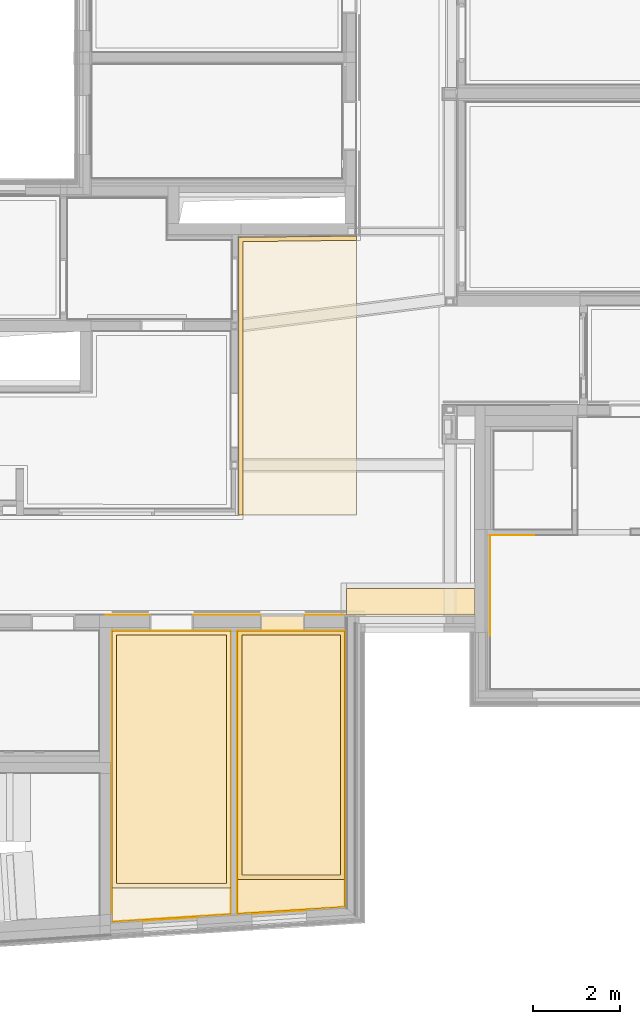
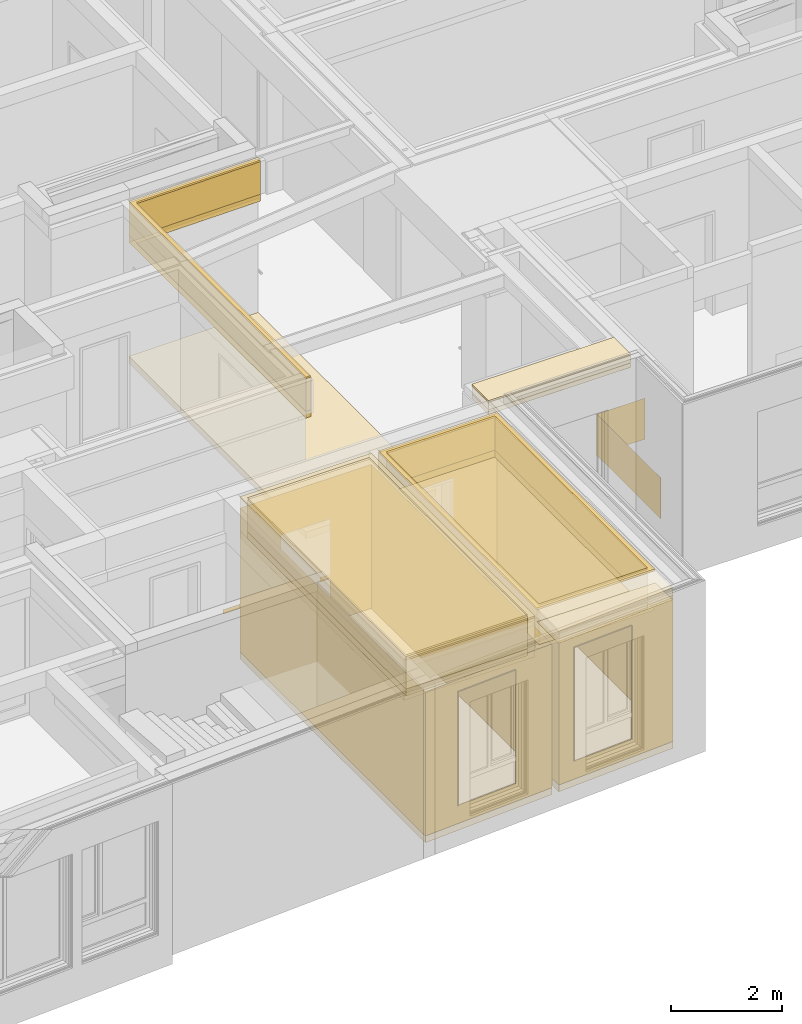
# One storey, part 182 of 222: 34 coverings.
"""IFC4 building model written with IfcOpenShell, lengths in metres."""

from ifc_helpers import new_model, entity, si_unit, converted_unit, derived_unit, frame, frame_2d, origin, origin_with_axes, place, context, subcontext, project, spatial, polyline, rectangle, outline, extrude, material, layer, layer_set, layer_usage, element, save


model = new_model("IFC4")

# Units and contexts
model_context = context("Model", 3, precision=1e-05, world=origin())
body_context = subcontext(model_context, "Body", "Model", "MODEL_VIEW")
ifc_project = project(units=[si_unit("LENGTHUNIT", "METRE"), si_unit("AREAUNIT", "SQUARE_METRE"), si_unit("VOLUMEUNIT", "CUBIC_METRE"), si_unit("MASSUNIT", "GRAM", prefix="KILO"), converted_unit("PLANEANGLEUNIT", "DEGREE", entity("IfcPlaneAngleMeasure", 0.0174532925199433), si_unit("PLANEANGLEUNIT", "RADIAN"), dimensions=[0, 0, 0, 0, 0, 0, 0]), derived_unit("THERMALTRANSMITTANCEUNIT", [(si_unit("POWERUNIT", "WATT"), 1), (si_unit("THERMODYNAMICTEMPERATUREUNIT", "KELVIN"), -1), (si_unit("LENGTHUNIT", "METRE"), -2)]), derived_unit("VOLUMETRICFLOWRATEUNIT", [(si_unit("LENGTHUNIT", "METRE"), 3), (converted_unit("TIMEUNIT", "hour", entity("IfcTimeMeasure", 3600.0), si_unit("TIMEUNIT", "SECOND"), dimensions=[0, 0, 1, 0, 0, 0, 0]), -1), (si_unit("LENGTHUNIT", "METRE"), -1)])], contexts=[model_context])

# Site, building, storey, space
site_placement = place(None, origin())
site = spatial("IfcSite", under=ifc_project, at=site_placement, Name="Psychiatrie Neubau Wunstorf", CompositionType="ELEMENT")
building_placement = place(site_placement, origin())
building = spatial("IfcBuilding", under=site, at=building_placement, Name="Neubau H2 Stationsgebäude", CompositionType="ELEMENT")
storey_placement = place(building_placement, frame((0.0, 0.0, 3.6)))
storey = spatial("IfcBuildingStorey", under=building, at=storey_placement, Name="H2 Ebene +1", CompositionType="ELEMENT", Elevation=3.6)
space_1_placement = place(storey_placement, frame((59.7893138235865, 0.536002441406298, 0.0)))
space_1 = spatial("IfcSpace", under=storey, at=space_1_placement, Name="WUN-H2-E01-F07", CompositionType="ELEMENT")

# Coverings
ifc_material_1 = material(Name="97")
ifc_layer_1 = layer(ifc_material_1, 0.001)
ifc_layer_set_1 = layer_set([ifc_layer_1])
ifc_layer_usage_1 = layer_usage(ifc_layer_set_1, "AXIS3", "POSITIVE", 0.0)
covering_1_placement = place(space_1_placement, frame((2.59547982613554, 0.0, 0.8)))
element("IfcCovering", 1, at=covering_1_placement, inside=space_1, material=ifc_layer_usage_1, Name="Handlauf", PredefinedType="CLADDING", context=body_context, shape_type="SweptSolid", body=[
    extrude(rectangle(XDim=0.99943192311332, YDim=0.1, at=frame_2d((0.49971596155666, -0.05), x_axis=(1.0, 0.0))), frame((0.0, 0.0, 0.0), z_axis=(-2.27502914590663e-16, 1.0, 0.0), x_axis=(1.0, 2.27502914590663e-16, 0.0)), (0.0, 0.0, 1.0), 0.001),
    extrude(rectangle(XDim=0.1, YDim=0.895999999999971, at=frame_2d((0.447999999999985, 0.05), x_axis=(0.0, 1.0))), frame((4.55020635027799, 0.0, 0.1), z_axis=(-2.53765262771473e-16, 1.0, 0.0), x_axis=(1.0, 2.53765262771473e-16, 0.0)), (0.0, 0.0, 1.0), 0.001),
    extrude(rectangle(XDim=0.1, YDim=1.53077442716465, at=frame_2d((0.765387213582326, 0.05), x_axis=(0.0, 1.0))), frame((2.00943192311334, 0.0, 0.1), z_axis=(-2.22802593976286e-16, 1.0, 0.0), x_axis=(1.0, 2.22802593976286e-16, 0.0)), (0.0, 0.0, 1.0), 0.001),
])
ifc_material_2 = material()
ifc_layer_2 = layer(ifc_material_2, 0.036)
ifc_layer_set_2 = layer_set([ifc_layer_2])
ifc_layer_usage_2 = layer_usage(ifc_layer_set_2, "AXIS3", "POSITIVE", 0.0)
covering_2_placement = place(space_1_placement, frame((8.0996861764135, 0.0, 3.55)))
element("IfcCovering", 2, at=covering_2_placement, inside=space_1, material=ifc_layer_usage_2, Name="Gipsfaserplatten 2-lagig (BSK)", PredefinedType="CEILING", context=body_context, shape_type="SweptSolid", body=[
    extrude(rectangle(XDim=0.6, YDim=2.94649847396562, at=frame_2d((1.47324923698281, -0.3), x_axis=(0.0, -1.0))), frame((0.0, 0.0, 0.0), z_axis=(0.0, 0.0, -1.0), x_axis=(1.0, 0.0, 0.0)), (0.0, 0.0, 1.0), 0.036),
])
ifc_material_3 = material(Name="Installationshöhe")
ifc_layer_3 = layer(ifc_material_3, 0.164)
ifc_layer_set_3 = layer_set([ifc_layer_3])
ifc_layer_usage_3 = layer_usage(ifc_layer_set_3, "AXIS3", "POSITIVE", 0.0)
covering_3_placement = place(space_1_placement, frame((8.0996861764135, 0.0, 3.514)))
element("IfcCovering", 3, at=covering_3_placement, inside=space_1, material=ifc_layer_usage_3, Name="Gipsfaserplatten 2-lagig (BSK)", PredefinedType="CEILING", context=body_context, shape_type="SweptSolid", body=[
    extrude(rectangle(XDim=0.6, YDim=2.94649847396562, at=frame_2d((1.47324923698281, -0.3), x_axis=(0.0, -1.0))), frame((0.0, 0.0, 0.0), z_axis=(0.0, 0.0, -1.0), x_axis=(1.0, 0.0, 0.0)), (0.0, 0.0, 1.0), 0.164),
])
ifc_material_4 = material(Name="A1")
ifc_layer_4 = layer(ifc_material_4, 0.1)
ifc_layer_set_4 = layer_set([ifc_layer_4])
ifc_layer_usage_4 = layer_usage(ifc_layer_set_4, "AXIS3", "POSITIVE", 0.0)
covering_4_placement = place(space_1_placement, frame((8.0996861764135, 0.0, 3.35)))
element("IfcCovering", 4, at=covering_4_placement, inside=space_1, material=ifc_layer_usage_4, Name="Gipsfaserplatten 2-lagig (BSK)", PredefinedType="CEILING", context=body_context, shape_type="SweptSolid", body=[
    extrude(rectangle(XDim=0.6, YDim=2.94649847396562, at=frame_2d((1.47324923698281, -0.3), x_axis=(0.0, -1.0))), frame((0.0, 0.0, 0.0), z_axis=(0.0, 0.0, -1.0), x_axis=(1.0, 0.0, 0.0)), (0.0, 0.0, 1.0), 0.1),
])
ifc_material_5 = material(Name="D1")
ifc_layer_5 = layer(ifc_material_5, 0.001)
ifc_layer_set_5 = layer_set([ifc_layer_5])
ifc_layer_usage_5 = layer_usage(ifc_layer_set_5, "AXIS3", "POSITIVE", 0.0)
covering_5_placement = place(space_1_placement, frame((8.0996861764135, 0.0, 3.25)))
element("IfcCovering", 5, at=covering_5_placement, inside=space_1, material=ifc_layer_usage_5, Name="Gipsfaserplatten 2-lagig (BSK)", PredefinedType="CEILING", context=body_context, shape_type="SweptSolid", body=[
    extrude(rectangle(XDim=0.6, YDim=2.94649847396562, at=frame_2d((1.47324923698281, -0.3), x_axis=(0.0, -1.0))), frame((0.0, 0.0, 0.0), z_axis=(0.0, 0.0, -1.0), x_axis=(1.0, 0.0, 0.0)), (0.0, 0.0, 1.0), 0.001),
])

# Space
space_2_placement = place(storey_placement, frame((71.1825, -1.16399999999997, 0.0)))
space_2 = spatial("IfcSpace", under=storey, at=space_2_placement, Name="WUN-H2-E01-096", CompositionType="ELEMENT")

# Covering
ifc_material_6 = material(Name="84")
ifc_layer_6 = layer(ifc_material_6, 0.001)
ifc_layer_set_6 = layer_set([ifc_layer_6])
ifc_layer_usage_6 = layer_usage(ifc_layer_set_6, "AXIS3", "POSITIVE", 0.0)
covering_6_placement = place(space_2_placement, frame((0.0, 1.22450000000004, 0.1)))
element("IfcCovering", 6, at=covering_6_placement, inside=space_2, material=ifc_layer_usage_6, Name="Acrovyn", PredefinedType="CLADDING", context=body_context, shape_type="SweptSolid", body=[
    extrude(rectangle(XDim=1.0035, YDim=0.9, at=frame_2d((0.50175, -0.45), x_axis=(1.0, 0.0))), frame((1.0035, 2.29999999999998, 0.0), z_axis=(-1.99390966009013e-14, -1.0, 0.0), x_axis=(-1.0, 1.99390966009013e-14, 0.0)), (0.0, 0.0, 1.0), 0.001),
    extrude(rectangle(XDim=2.3, YDim=0.9, at=frame_2d((1.15, -0.45), x_axis=(1.0, 0.0))), frame((0.0, 2.3, 0.0), z_axis=(1.0, 0.0, 0.0), x_axis=(0.0, -1.0, 0.0)), (0.0, 0.0, 1.0), 0.001),
])

# Space
space_3_placement = place(storey_placement, frame((62.529793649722, -6.48193409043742, 0.0)))
space_3 = spatial("IfcSpace", under=storey, at=space_3_placement, Name="WUN-H2-E01-073", CompositionType="ELEMENT")

# Coverings
ifc_material_7 = material()
ifc_layer_7 = layer(ifc_material_7, 0.036)
ifc_layer_set_7 = layer_set([ifc_layer_7])
ifc_layer_usage_7 = layer_usage(ifc_layer_set_7, "AXIS3", "POSITIVE", 0.0)
covering_7_placement = place(space_3_placement, frame((0.0, 0.774687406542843, 3.55)))
element("IfcCovering", 7, at=covering_7_placement, inside=space_3, material=ifc_layer_usage_7, Name="Gipsfaserplatten 2-lagig (BSK)", PredefinedType="CEILING", context=body_context, shape_type="SweptSolid", body=[
    extrude(rectangle(XDim=2.72020635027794, YDim=5.87824912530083, at=frame_2d((1.36010317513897, 2.93912456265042), x_axis=(1.0, 1.67173843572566e-16))), frame((0.0, 5.87824912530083, 0.0), z_axis=(0.0, 0.0, -1.0), x_axis=(1.0, 0.0, 0.0)), (0.0, 0.0, 1.0), 0.036),
])
ifc_material_8 = material(Name="Installationshöhe")
ifc_layer_8 = layer(ifc_material_8, 0.714)
ifc_layer_set_8 = layer_set([ifc_layer_8])
ifc_layer_usage_8 = layer_usage(ifc_layer_set_8, "AXIS3", "POSITIVE", 0.0)
covering_8_placement = place(space_3_placement, frame((0.0, 0.774687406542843, 3.514)))
element("IfcCovering", 8, at=covering_8_placement, inside=space_3, material=ifc_layer_usage_8, Name="Gipsfaserplatten 2-lagig (BSK)", PredefinedType="CEILING", context=body_context, shape_type="SweptSolid", body=[
    extrude(rectangle(XDim=2.72020635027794, YDim=5.87824912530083, at=frame_2d((1.36010317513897, 2.93912456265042), x_axis=(1.0, 1.67173843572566e-16))), frame((0.0, 5.87824912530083, 0.0), z_axis=(0.0, 0.0, -1.0), x_axis=(1.0, 0.0, 0.0)), (0.0, 0.0, 1.0), 0.714),
])
ifc_material_9 = material(Name="A1")
ifc_layer_9 = layer(ifc_material_9, 0.15)
ifc_layer_set_9 = layer_set([ifc_layer_9])
ifc_layer_usage_9 = layer_usage(ifc_layer_set_9, "AXIS3", "POSITIVE", 0.0)
covering_9_placement = place(space_3_placement, frame((0.0, 0.774687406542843, 2.8)))
element("IfcCovering", 9, at=covering_9_placement, inside=space_3, material=ifc_layer_usage_9, Name="Gipsfaserplatten 2-lagig (BSK)", PredefinedType="CEILING", context=body_context, shape_type="SweptSolid", body=[
    extrude(rectangle(XDim=2.72020635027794, YDim=5.87824912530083, at=frame_2d((1.36010317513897, 2.93912456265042), x_axis=(1.0, 1.67173843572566e-16))), frame((0.0, 5.87824912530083, 0.0), z_axis=(0.0, 0.0, -1.0), x_axis=(1.0, 0.0, 0.0)), (0.0, 0.0, 1.0), 0.15),
])
ifc_material_10 = material(Name="D1")
ifc_layer_10 = layer(ifc_material_10, 0.001)
ifc_layer_set_10 = layer_set([ifc_layer_10])
ifc_layer_usage_10 = layer_usage(ifc_layer_set_10, "AXIS3", "POSITIVE", 0.0)
covering_10_placement = place(space_3_placement, frame((0.0, 0.774687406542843, 2.65)))
element("IfcCovering", 10, at=covering_10_placement, inside=space_3, material=ifc_layer_usage_10, Name="Gipsfaserplatten 2-lagig (BSK)", PredefinedType="CEILING", context=body_context, shape_type="SweptSolid", body=[
    extrude(rectangle(XDim=2.72020635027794, YDim=5.87824912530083, at=frame_2d((1.36010317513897, 2.93912456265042), x_axis=(1.0, 1.67173843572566e-16))), frame((0.0, 5.87824912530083, 0.0), z_axis=(0.0, 0.0, -1.0), x_axis=(1.0, 0.0, 0.0)), (0.0, 0.0, 1.0), 0.001),
])
ifc_material_11 = material()
ifc_layer_11 = layer(ifc_material_11, 0.036)
ifc_layer_set_11 = layer_set([ifc_layer_11])
ifc_layer_usage_11 = layer_usage(ifc_layer_set_11, "AXIS3", "POSITIVE", 0.0)
covering_11_placement = place(space_3_placement, frame((0.100000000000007, 0.874687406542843, 3.55)))
element("IfcCovering", 11, at=covering_11_placement, inside=space_3, material=ifc_layer_usage_11, Name="Gipsfaserplatten 2-lagig (BSK)", PredefinedType="CEILING", context=body_context, shape_type="SweptSolid", body=[
    extrude(rectangle(XDim=5.67824912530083, YDim=2.52020635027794, at=frame_2d((1.26010317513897, -2.83912456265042), x_axis=(0.0, -1.0))), frame((0.0, 0.0, 0.0), z_axis=(0.0, 0.0, -1.0), x_axis=(1.0, 0.0, 0.0)), (0.0, 0.0, 1.0), 0.036),
])
ifc_material_12 = material(Name="Installationshöhe")
ifc_layer_12 = layer(ifc_material_12, 0.714)
ifc_layer_set_12 = layer_set([ifc_layer_12])
ifc_layer_usage_12 = layer_usage(ifc_layer_set_12, "AXIS3", "POSITIVE", 0.0)
covering_12_placement = place(space_3_placement, frame((0.100000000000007, 0.874687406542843, 3.514)))
element("IfcCovering", 12, at=covering_12_placement, inside=space_3, material=ifc_layer_usage_12, Name="Gipsfaserplatten 2-lagig (BSK)", PredefinedType="CEILING", context=body_context, shape_type="SweptSolid", body=[
    extrude(rectangle(XDim=5.67824912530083, YDim=2.52020635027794, at=frame_2d((1.26010317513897, -2.83912456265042), x_axis=(0.0, -1.0))), frame((0.0, 0.0, 0.0), z_axis=(0.0, 0.0, -1.0), x_axis=(1.0, 0.0, 0.0)), (0.0, 0.0, 1.0), 0.714),
])
ifc_material_13 = material(Name="Aa")
ifc_layer_13 = layer(ifc_material_13, 0.15)
ifc_layer_set_13 = layer_set([ifc_layer_13])
ifc_layer_usage_13 = layer_usage(ifc_layer_set_13, "AXIS3", "POSITIVE", 0.0)
covering_13_placement = place(space_3_placement, frame((0.100000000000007, 0.874687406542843, 2.8)))
element("IfcCovering", 13, at=covering_13_placement, inside=space_3, material=ifc_layer_usage_13, Name="Gipsfaserplatten 2-lagig (BSK)", PredefinedType="CEILING", context=body_context, shape_type="SweptSolid", body=[
    extrude(rectangle(XDim=5.67824912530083, YDim=2.52020635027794, at=frame_2d((1.26010317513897, -2.83912456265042), x_axis=(0.0, -1.0))), frame((0.0, 0.0, 0.0), z_axis=(0.0, 0.0, -1.0), x_axis=(1.0, 0.0, 0.0)), (0.0, 0.0, 1.0), 0.15),
])
ifc_material_14 = material(Name="D1")
ifc_layer_14 = layer(ifc_material_14, 0.001)
ifc_layer_set_14 = layer_set([ifc_layer_14])
ifc_layer_usage_14 = layer_usage(ifc_layer_set_14, "AXIS3", "POSITIVE", 0.0)
covering_14_placement = place(space_3_placement, frame((0.100000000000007, 0.874687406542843, 2.65)))
element("IfcCovering", 14, at=covering_14_placement, inside=space_3, material=ifc_layer_usage_14, Name="Gipsfaserplatten 2-lagig (BSK)", PredefinedType="CEILING", context=body_context, shape_type="SweptSolid", body=[
    extrude(rectangle(XDim=5.67824912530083, YDim=2.52020635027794, at=frame_2d((1.26010317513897, -2.83912456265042), x_axis=(0.0, -1.0))), frame((0.0, 0.0, 0.0), z_axis=(0.0, 0.0, -1.0), x_axis=(1.0, 0.0, 0.0)), (0.0, 0.0, 1.0), 0.001),
])
ifc_material_15 = material(Name="Ku1")
ifc_layer_15 = layer(ifc_material_15, 0.15)
ifc_layer_set_15 = layer_set([ifc_layer_15])
ifc_layer_usage_15 = layer_usage(ifc_layer_set_15, "AXIS3", "POSITIVE", 0.0)
covering_15_placement = place(space_3_placement, origin())
element("IfcCovering", 15, at=covering_15_placement, inside=space_3, material=ifc_layer_usage_15, Name="PVC Bahnenware Holzoptik", PredefinedType="FLOORING", context=body_context, shape_type="SweptSolid", body=[
    extrude(outline(polyline([(0.0, 6.65293653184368), (0.0, 0.0), (2.72020635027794, 0.174687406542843), (2.72020635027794, 6.65293653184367), (0.0, 6.65293653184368)])), origin_with_axes(), (0.0, 0.0, 1.0), 0.15),
])
ifc_material_16 = material(Name="49")
ifc_layer_16 = layer(ifc_material_16, 0.001)
ifc_layer_set_16 = layer_set([ifc_layer_16])
ifc_layer_usage_16 = layer_usage(ifc_layer_set_16, "AXIS3", "POSITIVE", 0.0)
covering_16_placement = place(space_3_placement, frame((0.0, 0.0, 0.15)))
element("IfcCovering", 16, at=covering_16_placement, inside=space_3, material=ifc_layer_usage_16, PredefinedType="CLADDING", context=body_context, shape_type="SweptSolid", body=[
    extrude(rectangle(XDim=6.47824912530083, YDim=3.15, at=frame_2d((3.23912456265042, -1.575), x_axis=(1.0, 0.0))), frame((2.72020635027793, 0.174687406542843, 0.0), z_axis=(-1.0, 0.0, 0.0), x_axis=(0.0, 1.0, 0.0)), (0.0, 0.0, 1.0), 0.001),
    extrude(outline(polyline([(0.0, 3.15), (0.855774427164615, 3.15), (0.855774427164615, 0.89), (1.86577442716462, 0.89), (1.86577442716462, 3.15), (2.72020635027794, 3.15), (2.72020635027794, 0.0), (0.0, 0.0), (0.0, 3.15)])), frame((2.72020635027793, 6.65293653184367, 3.15), z_axis=(-3.04773278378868e-16, -1.0, -5.14314195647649e-17), x_axis=(-1.0, 3.04773278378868e-16, 0.0)), (0.0, 0.0, 1.0), 0.001),
    extrude(rectangle(XDim=6.65293653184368, YDim=3.15, at=frame_2d((3.32646826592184, -1.575), x_axis=(1.0, 0.0))), frame((0.0, 6.65293653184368, 0.0), z_axis=(1.0, 0.0, 0.0), x_axis=(0.0, -1.0, 0.0)), (0.0, 0.0, 1.0), 0.001),
    extrude(outline(polyline([(0.0, 3.15), (2.72580965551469, 3.15), (2.72580965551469, 0.0), (0.0, 0.0), (0.0, 3.15)]), holes=[polyline([(1.9409730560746, 2.75), (0.69097305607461, 2.75), (0.69097305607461, 0.25), (1.9409730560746, 0.25), (1.9409730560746, 2.75)])]), frame((0.0, 0.0, 3.15), z_axis=(-0.0640864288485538, 0.997944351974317, 0.0), x_axis=(0.997944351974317, 0.0640864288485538, 0.0)), (0.0, 0.0, 1.0), 0.001),
    extrude(rectangle(XDim=0.0250000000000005, YDim=1.24999999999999, at=frame_2d((0.624516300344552, -0.027579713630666), x_axis=(0.064086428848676, 0.997944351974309))), frame((0.689552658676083, 0.0442819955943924, 2.9), z_axis=(0.0, 0.0, -1.0), x_axis=(1.0, 0.0, 0.0)), (0.0, 0.0, 1.0), 0.001),
    extrude(rectangle(XDim=0.025, YDim=2.5, at=frame_2d((0.0125, -1.25), x_axis=(1.0, 0.0))), frame((0.689552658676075, 0.0442819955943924, 0.4), z_axis=(0.997944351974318, 0.0640864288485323, -1.44053441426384e-15), x_axis=(0.0640864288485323, -0.997944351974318, 0.0)), (0.0, 0.0, 1.0), 0.001),
    extrude(rectangle(XDim=2.5, YDim=0.0250000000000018, at=frame_2d((-0.0125000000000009, -1.25), x_axis=(0.0, -1.0))), frame((1.93698309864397, 0.124390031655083, 0.4), z_axis=(-0.997944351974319, -0.0640864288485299, 1.41725268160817e-15), x_axis=(-0.0640864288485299, 0.997944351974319, 0.0)), (0.0, 0.0, 1.0), 0.001),
])

# Space
space_4_placement = place(storey_placement, frame((65.4, -6.29761391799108, 0.0)))
space_4 = spatial("IfcSpace", under=storey, at=space_4_placement, Name="WUN-H2-E01-073", CompositionType="ELEMENT")

# Coverings
ifc_material_17 = material()
ifc_layer_17 = layer(ifc_material_17, 0.036)
ifc_layer_set_17 = layer_set([ifc_layer_17])
ifc_layer_usage_17 = layer_usage(ifc_layer_set_17, "AXIS3", "POSITIVE", 0.0)
covering_17_placement = place(space_4_placement, frame((0.0, 0.783613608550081, 3.55)))
element("IfcCovering", 17, at=covering_17_placement, inside=space_4, material=ifc_layer_usage_17, Name="Gipsfaserplatten 2-lagig (BSK)", PredefinedType="CEILING", context=body_context, shape_type="SweptSolid", body=[
    extrude(outline(polyline([(0.0, 0.0), (2.45250000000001, 0.0), (2.45250000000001, 5.68500275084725), (0.0, 5.68500275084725), (0.0, 0.0)]), holes=[polyline([(2.35250000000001, 5.58500275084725), (2.35250000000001, 0.0999999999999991), (0.1, 0.0999999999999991), (0.1, 5.58500275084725), (2.35250000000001, 5.58500275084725)])]), frame((0.0, 5.68500275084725, 0.0), z_axis=(0.0, 0.0, -1.0), x_axis=(1.0, 0.0, 0.0)), (0.0, 0.0, 1.0), 0.036),
])
ifc_material_18 = material(Name="Installationshöhe")
ifc_layer_18 = layer(ifc_material_18, 0.714)
ifc_layer_set_18 = layer_set([ifc_layer_18])
ifc_layer_usage_18 = layer_usage(ifc_layer_set_18, "AXIS3", "POSITIVE", 0.0)
covering_18_placement = place(space_4_placement, frame((0.0, 0.783613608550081, 3.514)))
element("IfcCovering", 18, at=covering_18_placement, inside=space_4, material=ifc_layer_usage_18, Name="Gipsfaserplatten 2-lagig (BSK)", PredefinedType="CEILING", context=body_context, shape_type="SweptSolid", body=[
    extrude(outline(polyline([(0.0, 0.0), (2.45250000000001, 0.0), (2.45250000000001, 5.68500275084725), (0.0, 5.68500275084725), (0.0, 0.0)]), holes=[polyline([(2.35250000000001, 5.58500275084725), (2.35250000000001, 0.0999999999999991), (0.1, 0.0999999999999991), (0.1, 5.58500275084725), (2.35250000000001, 5.58500275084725)])]), frame((0.0, 5.68500275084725, 0.0), z_axis=(0.0, 0.0, -1.0), x_axis=(1.0, 0.0, 0.0)), (0.0, 0.0, 1.0), 0.714),
])
ifc_material_19 = material(Name="A1")
ifc_layer_19 = layer(ifc_material_19, 0.15)
ifc_layer_set_19 = layer_set([ifc_layer_19])
ifc_layer_usage_19 = layer_usage(ifc_layer_set_19, "AXIS3", "POSITIVE", 0.0)
covering_19_placement = place(space_4_placement, frame((0.0, 0.783613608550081, 2.8)))
element("IfcCovering", 19, at=covering_19_placement, inside=space_4, material=ifc_layer_usage_19, Name="Gipsfaserplatten 2-lagig (BSK)", PredefinedType="CEILING", context=body_context, shape_type="SweptSolid", body=[
    extrude(outline(polyline([(0.0, 0.0), (2.45250000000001, 0.0), (2.45250000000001, 5.68500275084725), (0.0, 5.68500275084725), (0.0, 0.0)]), holes=[polyline([(2.35250000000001, 5.58500275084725), (2.35250000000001, 0.0999999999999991), (0.1, 0.0999999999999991), (0.1, 5.58500275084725), (2.35250000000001, 5.58500275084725)])]), frame((0.0, 5.68500275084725, 0.0), z_axis=(0.0, 0.0, -1.0), x_axis=(1.0, 0.0, 0.0)), (0.0, 0.0, 1.0), 0.15),
])
ifc_material_20 = material(Name="D1")
ifc_layer_20 = layer(ifc_material_20, 0.001)
ifc_layer_set_20 = layer_set([ifc_layer_20])
ifc_layer_usage_20 = layer_usage(ifc_layer_set_20, "AXIS3", "POSITIVE", 0.0)
covering_20_placement = place(space_4_placement, frame((0.0, 0.783613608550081, 2.65)))
element("IfcCovering", 20, at=covering_20_placement, inside=space_4, material=ifc_layer_usage_20, Name="Gipsfaserplatten 2-lagig (BSK)", PredefinedType="CEILING", context=body_context, shape_type="SweptSolid", body=[
    extrude(outline(polyline([(0.0, 0.0), (2.45250000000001, 0.0), (2.45250000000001, 5.68500275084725), (0.0, 5.68500275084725), (0.0, 0.0)]), holes=[polyline([(2.35250000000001, 5.58500275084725), (2.35250000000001, 0.0999999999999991), (0.1, 0.0999999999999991), (0.1, 5.58500275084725), (2.35250000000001, 5.58500275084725)])]), frame((0.0, 5.68500275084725, 0.0), z_axis=(0.0, 0.0, -1.0), x_axis=(1.0, 0.0, 0.0)), (0.0, 0.0, 1.0), 0.001),
])
ifc_material_21 = material()
ifc_layer_21 = layer(ifc_material_21, 0.036)
ifc_layer_set_21 = layer_set([ifc_layer_21])
ifc_layer_usage_21 = layer_usage(ifc_layer_set_21, "AXIS3", "POSITIVE", 0.0)
covering_21_placement = place(space_4_placement, frame((0.100000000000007, 0.883613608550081, 3.55)))
element("IfcCovering", 21, at=covering_21_placement, inside=space_4, material=ifc_layer_usage_21, Name="Gipsfaserplatten 2-lagig (BSK)", PredefinedType="CEILING", context=body_context, shape_type="SweptSolid", body=[
    extrude(rectangle(XDim=2.25250000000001, YDim=5.48500275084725, at=frame_2d((1.12625000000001, 2.74250137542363), x_axis=(1.0, -2.01885616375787e-16))), frame((0.0, 5.48500275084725, 0.0), z_axis=(0.0, 0.0, -1.0), x_axis=(1.0, 0.0, 0.0)), (0.0, 0.0, 1.0), 0.036),
])
ifc_material_22 = material(Name="Installationshöhe")
ifc_layer_22 = layer(ifc_material_22, 0.714)
ifc_layer_set_22 = layer_set([ifc_layer_22])
ifc_layer_usage_22 = layer_usage(ifc_layer_set_22, "AXIS3", "POSITIVE", 0.0)
covering_22_placement = place(space_4_placement, frame((0.100000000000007, 0.883613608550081, 3.514)))
element("IfcCovering", 22, at=covering_22_placement, inside=space_4, material=ifc_layer_usage_22, Name="Gipsfaserplatten 2-lagig (BSK)", PredefinedType="CEILING", context=body_context, shape_type="SweptSolid", body=[
    extrude(rectangle(XDim=2.25250000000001, YDim=5.48500275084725, at=frame_2d((1.12625000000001, 2.74250137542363), x_axis=(1.0, -2.01885616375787e-16))), frame((0.0, 5.48500275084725, 0.0), z_axis=(0.0, 0.0, -1.0), x_axis=(1.0, 0.0, 0.0)), (0.0, 0.0, 1.0), 0.714),
])
ifc_material_23 = material(Name="Aa")
ifc_layer_23 = layer(ifc_material_23, 0.15)
ifc_layer_set_23 = layer_set([ifc_layer_23])
ifc_layer_usage_23 = layer_usage(ifc_layer_set_23, "AXIS3", "POSITIVE", 0.0)
covering_23_placement = place(space_4_placement, frame((0.100000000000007, 0.883613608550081, 2.8)))
element("IfcCovering", 23, at=covering_23_placement, inside=space_4, material=ifc_layer_usage_23, Name="Gipsfaserplatten 2-lagig (BSK)", PredefinedType="CEILING", context=body_context, shape_type="SweptSolid", body=[
    extrude(rectangle(XDim=2.25250000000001, YDim=5.48500275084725, at=frame_2d((1.12625000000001, 2.74250137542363), x_axis=(1.0, -2.01885616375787e-16))), frame((0.0, 5.48500275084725, 0.0), z_axis=(0.0, 0.0, -1.0), x_axis=(1.0, 0.0, 0.0)), (0.0, 0.0, 1.0), 0.15),
])
ifc_material_24 = material(Name="D1")
ifc_layer_24 = layer(ifc_material_24, 0.001)
ifc_layer_set_24 = layer_set([ifc_layer_24])
ifc_layer_usage_24 = layer_usage(ifc_layer_set_24, "AXIS3", "POSITIVE", 0.0)
covering_24_placement = place(space_4_placement, frame((0.100000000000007, 0.883613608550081, 2.65)))
element("IfcCovering", 24, at=covering_24_placement, inside=space_4, material=ifc_layer_usage_24, Name="Gipsfaserplatten 2-lagig (BSK)", PredefinedType="CEILING", context=body_context, shape_type="SweptSolid", body=[
    extrude(rectangle(XDim=2.25250000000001, YDim=5.48500275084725, at=frame_2d((1.12625000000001, 2.74250137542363), x_axis=(1.0, -2.01885616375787e-16))), frame((0.0, 5.48500275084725, 0.0), z_axis=(0.0, 0.0, -1.0), x_axis=(1.0, 0.0, 0.0)), (0.0, 0.0, 1.0), 0.001),
])
ifc_material_25 = material(Name="Ku1")
ifc_layer_25 = layer(ifc_material_25, 0.15)
ifc_layer_set_25 = layer_set([ifc_layer_25])
ifc_layer_usage_25 = layer_usage(ifc_layer_set_25, "AXIS3", "POSITIVE", 0.0)
covering_25_placement = place(space_4_placement, origin())
element("IfcCovering", 25, at=covering_25_placement, inside=space_4, material=ifc_layer_usage_25, Name="PVC Bahnenware Holzoptik", PredefinedType="FLOORING", context=body_context, shape_type="SweptSolid", body=[
    extrude(rectangle(XDim=0.365, YDim=1.01, at=frame_2d((0.505, -0.1825), x_axis=(0.0, -1.0))), frame((0.525000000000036, 6.83361635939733, 0.0), z_axis=(0.0, 0.0, 1.0), x_axis=(1.0, 0.0, 0.0)), (0.0, 0.0, 1.0), 0.15),
    extrude(outline(polyline([(2.45250000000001, 0.157498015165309), (2.45250000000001, 6.46861635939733), (0.0, 6.46861635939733), (0.0, 0.0), (2.45250000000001, 0.157498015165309)])), origin_with_axes(), (0.0, 0.0, 1.0), 0.15),
])
ifc_material_26 = material(Name="Installationshöhe")
ifc_layer_26 = layer(ifc_material_26, 0.164)
ifc_layer_set_26 = layer_set([ifc_layer_26])
ifc_layer_usage_26 = layer_usage(ifc_layer_set_26, "AXIS3", "POSITIVE", 0.0)
covering_26_placement = place(space_4_placement, frame((0.0, 0.0, 3.514)))
element("IfcCovering", 26, at=covering_26_placement, inside=space_4, material=ifc_layer_usage_26, Name="Gipsfaserplatten 2-lagig (BSK)", PredefinedType="CEILING", context=body_context, shape_type="SweptSolid", body=[
    extrude(outline(polyline([(2.45250000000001, 0.0), (2.45250000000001, 0.626115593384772), (0.0, 0.783613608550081), (0.0, 0.0), (2.45250000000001, 0.0)])), frame((0.0, 0.783613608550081, 0.0), z_axis=(0.0, 0.0, -1.0), x_axis=(1.0, 0.0, 0.0)), (0.0, 0.0, 1.0), 0.164),
])
ifc_material_27 = material(Name="A1")
ifc_layer_27 = layer(ifc_material_27, 0.1)
ifc_layer_set_27 = layer_set([ifc_layer_27])
ifc_layer_usage_27 = layer_usage(ifc_layer_set_27, "AXIS3", "POSITIVE", 0.0)
covering_27_placement = place(space_4_placement, frame((0.0, 0.0, 3.35)))
element("IfcCovering", 27, at=covering_27_placement, inside=space_4, material=ifc_layer_usage_27, Name="Gipsfaserplatten 2-lagig (BSK)", PredefinedType="CEILING", context=body_context, shape_type="SweptSolid", body=[
    extrude(outline(polyline([(2.45250000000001, 0.0), (2.45250000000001, 0.626115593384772), (0.0, 0.783613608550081), (0.0, 0.0), (2.45250000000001, 0.0)])), frame((0.0, 0.783613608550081, 0.0), z_axis=(0.0, 0.0, -1.0), x_axis=(1.0, 0.0, 0.0)), (0.0, 0.0, 1.0), 0.1),
])
ifc_material_28 = material(Name="D1")
ifc_layer_28 = layer(ifc_material_28, 0.001)
ifc_layer_set_28 = layer_set([ifc_layer_28])
ifc_layer_usage_28 = layer_usage(ifc_layer_set_28, "AXIS3", "POSITIVE", 0.0)
covering_28_placement = place(space_4_placement, frame((0.0, 0.0, 3.25)))
element("IfcCovering", 28, at=covering_28_placement, inside=space_4, material=ifc_layer_usage_28, Name="Gipsfaserplatten 2-lagig (BSK)", PredefinedType="CEILING", context=body_context, shape_type="SweptSolid", body=[
    extrude(outline(polyline([(2.45250000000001, 0.0), (2.45250000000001, 0.626115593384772), (0.0, 0.783613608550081), (0.0, 0.0), (2.45250000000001, 0.0)])), frame((0.0, 0.783613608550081, 0.0), z_axis=(0.0, 0.0, -1.0), x_axis=(1.0, 0.0, 0.0)), (0.0, 0.0, 1.0), 0.001),
])
ifc_material_29 = material(Name="49")
ifc_layer_29 = layer(ifc_material_29, 0.001)
ifc_layer_set_29 = layer_set([ifc_layer_29])
ifc_layer_usage_29 = layer_usage(ifc_layer_set_29, "AXIS3", "POSITIVE", 0.0)
covering_29_placement = place(space_4_placement, frame((0.0, -0.00435666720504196, 0.15)))
element("IfcCovering", 29, at=covering_29_placement, inside=space_4, material=ifc_layer_usage_29, PredefinedType="CLADDING", context=body_context, shape_type="SweptSolid", body=[
    extrude(outline(polyline([(0.0, 3.15), (2.43600757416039, 3.15), (2.43600757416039, 0.0), (0.0, 0.0), (0.0, 3.15)]), holes=[polyline([(1.57131516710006, 2.75), (0.321315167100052, 2.75), (0.321315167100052, 0.25), (1.57131516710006, 0.25), (1.57131516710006, 2.75)])]), frame((0.0, 0.00435666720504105, 3.15), z_axis=(-0.064086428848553, 0.997944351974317, 0.0), x_axis=(0.997944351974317, 0.064086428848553, 0.0)), (0.0, 0.0, 1.0), 0.001),
    extrude(rectangle(XDim=0.0215444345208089, YDim=3.15, at=frame_2d((0.0107722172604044, -1.575), x_axis=(1.0, 0.0))), frame((2.43100000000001, 0.160471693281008, 0.0), z_axis=(-0.0641924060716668, 0.997937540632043, 0.0), x_axis=(0.997937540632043, 0.0641924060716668, 0.0)), (0.0, 0.0, 1.0), 0.001),
    extrude(rectangle(XDim=6.31111834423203, YDim=3.15, at=frame_2d((3.15555917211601, -1.575), x_axis=(1.0, 0.0))), frame((2.45250000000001, 0.161854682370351, 0.0), z_axis=(-1.0, 0.0, 0.0), x_axis=(0.0, 1.0, 0.0)), (0.0, 0.0, 1.0), 0.001),
    extrude(outline(polyline([(0.0, 3.15), (0.917499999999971, 3.15), (0.917499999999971, 0.89), (1.92749999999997, 0.89), (1.92749999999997, 3.15), (2.45250000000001, 3.15), (2.45250000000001, 0.0), (0.0, 0.0), (0.0, 3.15)])), frame((2.45250000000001, 6.47297302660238, 3.15), z_axis=(-2.14800235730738e-16, -1.0, -1.14008565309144e-16), x_axis=(-1.0, 2.14800235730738e-16, 0.0)), (0.0, 0.0, 1.0), 0.001),
    extrude(rectangle(XDim=6.46861635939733, YDim=3.15, at=frame_2d((3.23430817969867, -1.575), x_axis=(1.0, 0.0))), frame((0.0, 6.47297302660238, 0.0), z_axis=(1.0, 0.0, 0.0), x_axis=(0.0, -1.0, 0.0)), (0.0, 0.0, 1.0), 0.001),
    extrude(rectangle(XDim=0.0249999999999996, YDim=1.25000000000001, at=frame_2d((0.624516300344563, -0.0275797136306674), x_axis=(0.0640864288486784, 0.997944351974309))), frame((0.320654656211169, 0.0249486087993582, 2.9), z_axis=(0.0, 0.0, -1.0), x_axis=(1.0, 0.0, 0.0)), (0.0, 0.0, 1.0), 0.001),
    extrude(rectangle(XDim=0.025, YDim=2.5, at=frame_2d((0.0125, -1.25), x_axis=(1.0, 0.0))), frame((0.320654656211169, 0.0249486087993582, 0.4), z_axis=(0.997944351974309, 0.0640864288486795, 1.16550771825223e-17), x_axis=(0.0640864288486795, -0.997944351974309, 0.0)), (0.0, 0.0, 1.0), 0.001),
    extrude(rectangle(XDim=2.5, YDim=0.025, at=frame_2d((-0.0125, -1.25), x_axis=(0.0, -1.0))), frame((1.56808509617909, 0.105056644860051, 0.4), z_axis=(-0.997944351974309, -0.0640864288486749, 1.16550771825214e-17), x_axis=(-0.0640864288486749, 0.997944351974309, 0.0)), (0.0, 0.0, 1.0), 0.001),
])

# Space
space_5_placement = place(storey_placement, frame((65.4249963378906, 2.81749969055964, 0.0)))
space_5 = spatial("IfcSpace", under=storey, at=space_5_placement, Name="WUN-H2-E01-073", CompositionType="ELEMENT")

# Coverings
ifc_material_30 = material(Name="Ku1")
ifc_layer_30 = layer(ifc_material_30, 0.15)
ifc_layer_set_30 = layer_set([ifc_layer_30])
ifc_layer_usage_30 = layer_usage(ifc_layer_set_30, "AXIS3", "POSITIVE", 0.0)
covering_30_placement = place(space_5_placement, origin())
element("IfcCovering", 30, at=covering_30_placement, inside=space_5, material=ifc_layer_usage_30, Name="PVC Bahnenware Holzoptik", PredefinedType="FLOORING", context=body_context, shape_type="SweptSolid", body=[
    extrude(outline(polyline([(0.0, 6.35750072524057), (0.0, 0.0), (2.69250366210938, 0.0), (2.69250366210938, 6.38750036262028), (0.0, 6.35750072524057)])), origin_with_axes(), (0.0, 0.0, 1.0), 0.15),
])
ifc_material_31 = material()
ifc_layer_31 = layer(ifc_material_31, 0.036)
ifc_layer_set_31 = layer_set([ifc_layer_31])
ifc_layer_usage_31 = layer_usage(ifc_layer_set_31, "AXIS3", "POSITIVE", 0.0)
covering_31_placement = place(space_5_placement, frame((0.0, 0.0, 3.55)))
element("IfcCovering", 31, at=covering_31_placement, inside=space_5, material=ifc_layer_usage_31, Name="Gipsfaserplatten 2-lagig (BSK)", PredefinedType="CEILING", context=body_context, shape_type="SweptSolid", body=[
    extrude(outline(polyline([(0.0, 6.38750036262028), (0.0, 0.0299996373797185), (2.69250366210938, 0.0), (2.69250366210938, 0.100000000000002), (0.0999962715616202, 0.129999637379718), (0.0999962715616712, 6.38750036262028), (0.0, 6.38750036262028)])), frame((0.0, 6.38750036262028, 0.0), z_axis=(0.0, 0.0, -1.0), x_axis=(1.0, 0.0, 0.0)), (0.0, 0.0, 1.0), 0.036),
])
ifc_material_32 = material(Name="Installationshöhe")
ifc_layer_32 = layer(ifc_material_32, 0.714)
ifc_layer_set_32 = layer_set([ifc_layer_32])
ifc_layer_usage_32 = layer_usage(ifc_layer_set_32, "AXIS3", "POSITIVE", 0.0)
covering_32_placement = place(space_5_placement, frame((0.0, 0.0, 3.514)))
element("IfcCovering", 32, at=covering_32_placement, inside=space_5, material=ifc_layer_usage_32, Name="Gipsfaserplatten 2-lagig (BSK)", PredefinedType="CEILING", context=body_context, shape_type="SweptSolid", body=[
    extrude(outline(polyline([(0.0, 6.38750036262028), (0.0, 0.0299996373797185), (2.69250366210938, 0.0), (2.69250366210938, 0.100000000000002), (0.0999962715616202, 0.129999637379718), (0.0999962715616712, 6.38750036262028), (0.0, 6.38750036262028)])), frame((0.0, 6.38750036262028, 0.0), z_axis=(0.0, 0.0, -1.0), x_axis=(1.0, 0.0, 0.0)), (0.0, 0.0, 1.0), 0.714),
])
ifc_material_33 = material(Name="A1")
ifc_layer_33 = layer(ifc_material_33, 0.15)
ifc_layer_set_33 = layer_set([ifc_layer_33])
ifc_layer_usage_33 = layer_usage(ifc_layer_set_33, "AXIS3", "POSITIVE", 0.0)
covering_33_placement = place(space_5_placement, frame((0.0, 0.0, 2.8)))
element("IfcCovering", 33, at=covering_33_placement, inside=space_5, material=ifc_layer_usage_33, Name="Gipsfaserplatten 2-lagig (BSK)", PredefinedType="CEILING", context=body_context, shape_type="SweptSolid", body=[
    extrude(outline(polyline([(0.0, 6.38750036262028), (0.0, 0.0299996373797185), (2.69250366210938, 0.0), (2.69250366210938, 0.100000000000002), (0.0999962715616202, 0.129999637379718), (0.0999962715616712, 6.38750036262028), (0.0, 6.38750036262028)])), frame((0.0, 6.38750036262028, 0.0), z_axis=(0.0, 0.0, -1.0), x_axis=(1.0, 0.0, 0.0)), (0.0, 0.0, 1.0), 0.15),
])
ifc_material_34 = material(Name="D1")
ifc_layer_34 = layer(ifc_material_34, 0.001)
ifc_layer_set_34 = layer_set([ifc_layer_34])
ifc_layer_usage_34 = layer_usage(ifc_layer_set_34, "AXIS3", "POSITIVE", 0.0)
covering_34_placement = place(space_5_placement, frame((0.0, 0.0, 2.65)))
element("IfcCovering", 34, at=covering_34_placement, inside=space_5, material=ifc_layer_usage_34, Name="Gipsfaserplatten 2-lagig (BSK)", PredefinedType="CEILING", context=body_context, shape_type="SweptSolid", body=[
    extrude(outline(polyline([(0.0, 6.38750036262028), (0.0, 0.0299996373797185), (2.69250366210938, 0.0), (2.69250366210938, 0.100000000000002), (0.0999962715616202, 0.129999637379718), (0.0999962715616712, 6.38750036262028), (0.0, 6.38750036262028)])), frame((0.0, 6.38750036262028, 0.0), z_axis=(0.0, 0.0, -1.0), x_axis=(1.0, 0.0, 0.0)), (0.0, 0.0, 1.0), 0.001),
])

save(model, "model.ifc")
